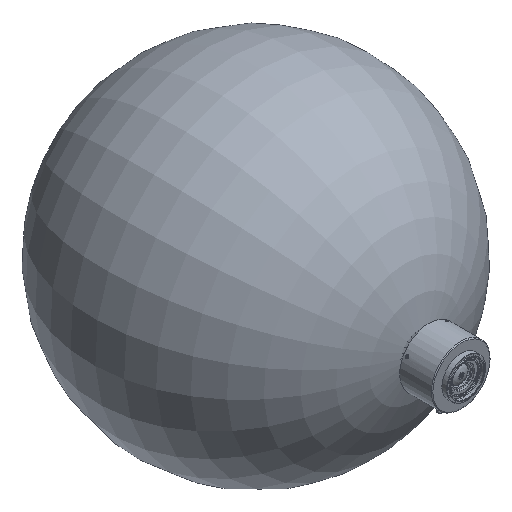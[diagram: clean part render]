
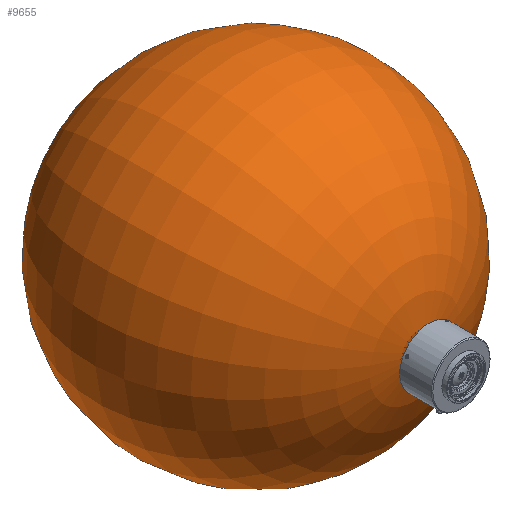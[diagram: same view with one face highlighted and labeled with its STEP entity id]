
A CAD part, isometric view. The second image highlights one B-rep face of the part: STEP entity #9655.
In plain terms, the highlighted toroidal (fillet/blend) face has major radius 0.002 mm and minor radius 211.6 mm.
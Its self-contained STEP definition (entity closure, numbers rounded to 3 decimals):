
#1618=VERTEX_LOOP('',#4653);
#1620=DEGENERATE_TOROIDAL_SURFACE('',#10109,0.002,211.6,
 .T.);
#1709=CIRCLE('',#10110,8.248);
#1918=ORIENTED_EDGE('',*,*,#3739,.F.);
#3739=EDGE_CURVE('',#4654,#4654,#1709,.T.);
#4653=VERTEX_POINT('',#12762);
#4654=VERTEX_POINT('',#12764);
#5380=EDGE_LOOP('',(#1918));
#5988=FACE_BOUND('',#1618,.T.);
#5989=FACE_BOUND('',#5380,.T.);
#9655=ADVANCED_FACE('',(#5988,#5989),#1620,.F.);
#10109=AXIS2_PLACEMENT_3D('',#12761,#10783,#10784);
#10110=AXIS2_PLACEMENT_3D('',#12763,#10785,#10786);
#10783=DIRECTION('',(0.,-1.,0.));
#10784=DIRECTION('',(0.,0.,-1.));
#10785=DIRECTION('',(0.,-1.,0.));
#10786=DIRECTION('',(0.,0.,-1.));
#12761=CARTESIAN_POINT('',(0.,200.921,0.));
#12762=CARTESIAN_POINT('',(0.,-10.679,0.));
#12763=CARTESIAN_POINT('',(0.,-10.518,0.));
#12764=CARTESIAN_POINT('',(0.,-10.518,-8.248));
